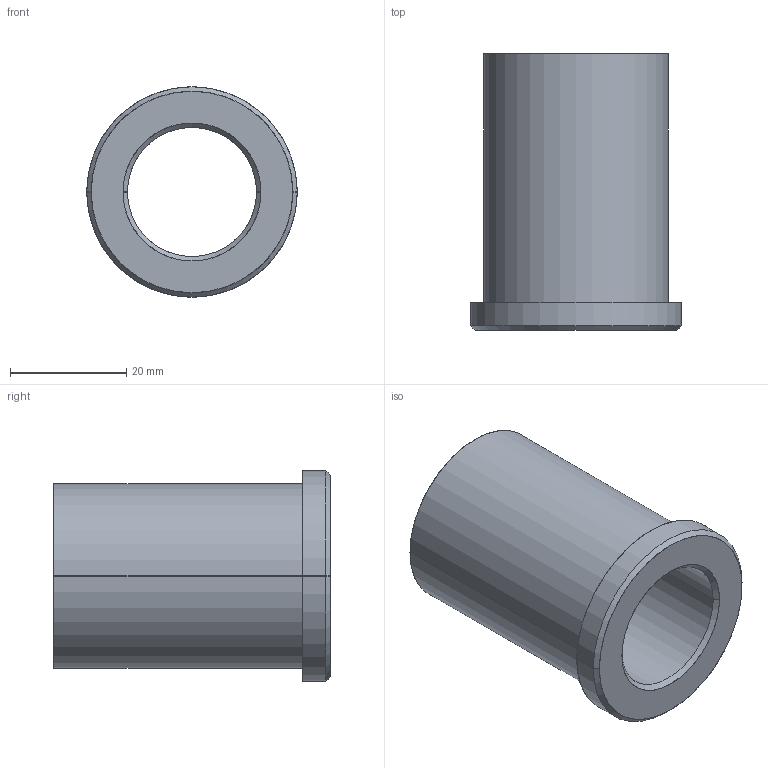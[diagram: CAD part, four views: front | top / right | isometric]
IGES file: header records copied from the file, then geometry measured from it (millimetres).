
Start section: SolidWorks IGES file using analytic representation for surfaces
Global section: file name: C:\Users\Ryan\Documents\PCS\Shoulder Bushings - Bronze Plated\LBB 07-17.igs; native system: SolidWorks 2009; preprocessor: SolidWorks 2009; author: Ryan; date: 140913.211629; units: inch
Bounding box: 36.25 x 47.62 x 36.25 mm (x, y, z)
Surface area: 9306.7 mm2 (no closed solid volume)
Topology: 0 solids, 0 shells, 15 faces, 368 edges, 368 vertices
Faces by surface type: revolution 10, bspline 5
